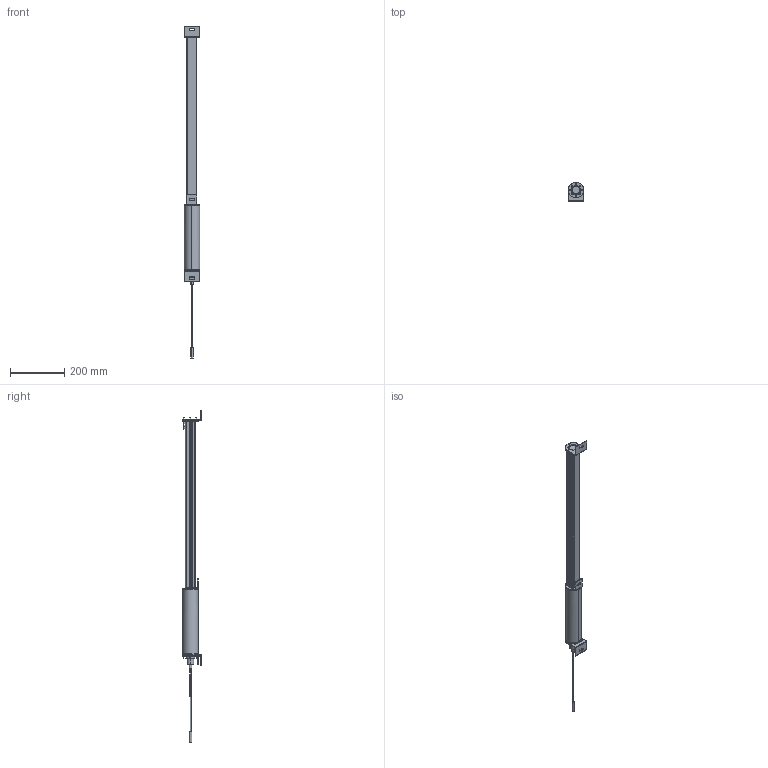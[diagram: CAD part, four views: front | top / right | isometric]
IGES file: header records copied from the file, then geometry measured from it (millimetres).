
Global section: file name: C:\ACADFILES\SS_PYLONS\CUSTOMER_FILES\SS-32-PYLON_3D_SMB.igs; native system: AutoCAD-18.2s (LMS Tech) (Microsoft Windows NT Version 6.1 (x86)); preprocessor: Autodesk IGES Translator Mechanical Desktop 2011 (Feb 18 2011) from Autodesk, Inc.; date: 20140326.150619; units: inch
Bounding box: 57.29 x 69.85 x 1219.57 mm (x, y, z)
Surface area: 489389.3 mm2 (no closed solid volume)
Topology: 0 solids, 0 shells, 1800 faces, 9329 edges, 9504 vertices
Faces by surface type: bspline 1800
